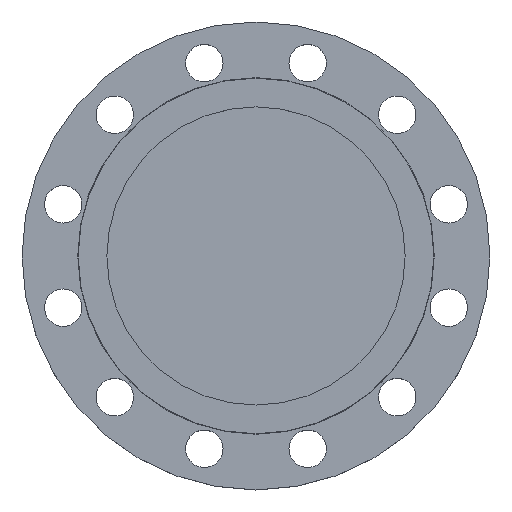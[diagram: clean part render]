
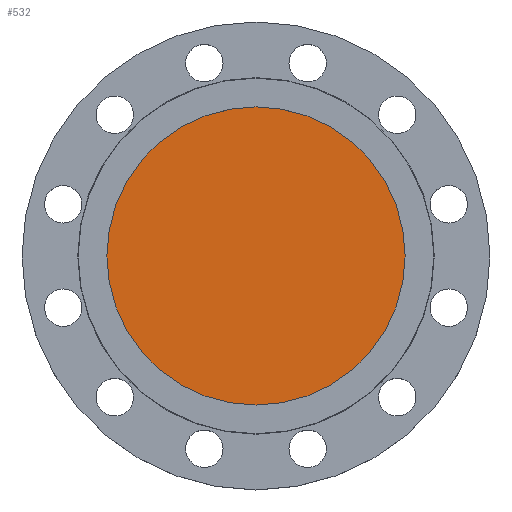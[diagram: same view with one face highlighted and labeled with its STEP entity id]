
A CAD part, top view. The second image highlights one B-rep face of the part: STEP entity #532.
In plain terms, the highlighted planar face has unit normal (0, 0, 1).
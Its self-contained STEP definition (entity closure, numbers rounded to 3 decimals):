
#21 = CARTESIAN_POINT ( 'NONE',  ( 0., 0., -5. ) ) ;
#57 = CIRCLE ( 'NONE', #79, 119.5 ) ;
#79 = AXIS2_PLACEMENT_3D ( 'NONE', #21, #99, #98 ) ;
#98 = DIRECTION ( 'NONE',  ( -1., 0., 0. ) ) ;
#99 = DIRECTION ( 'NONE',  ( 0., 0., -1. ) ) ;
#201 = CARTESIAN_POINT ( 'NONE',  ( 119.5, 0., -5. ) ) ;
#441 = EDGE_CURVE ( 'NONE', #1272, #605, #1162, .T. ) ;
#532 = ADVANCED_FACE ( 'NONE', ( #773 ), #771, .T. ) ;
#605 = VERTEX_POINT ( 'NONE', #716 ) ;
#716 = CARTESIAN_POINT ( 'NONE',  ( -119.5, 0., -5. ) ) ;
#767 = DIRECTION ( 'NONE',  ( 1., 0., 0. ) ) ;
#768 = DIRECTION ( 'NONE',  ( 0., 0., 1. ) ) ;
#770 = CARTESIAN_POINT ( 'NONE',  ( 0., 0., -5. ) ) ;
#771 = PLANE ( 'NONE',  #1249 ) ;
#773 = FACE_OUTER_BOUND ( 'NONE', #1290, .T. ) ;
#823 = DIRECTION ( 'NONE',  ( -1., 0., 0. ) ) ;
#828 = DIRECTION ( 'NONE',  ( 0., 0., -1. ) ) ;
#831 = CARTESIAN_POINT ( 'NONE',  ( 0., 0., -5. ) ) ;
#936 = ORIENTED_EDGE ( 'NONE', *, *, #1348, .F. ) ;
#940 = ORIENTED_EDGE ( 'NONE', *, *, #441, .F. ) ;
#987 = AXIS2_PLACEMENT_3D ( 'NONE', #831, #828, #823 ) ;
#1162 = CIRCLE ( 'NONE', #987, 119.5 ) ;
#1249 = AXIS2_PLACEMENT_3D ( 'NONE', #770, #768, #767 ) ;
#1272 = VERTEX_POINT ( 'NONE', #201 ) ;
#1290 = EDGE_LOOP ( 'NONE', ( #936, #940 ) ) ;
#1348 = EDGE_CURVE ( 'NONE', #605, #1272, #57, .T. ) ;
